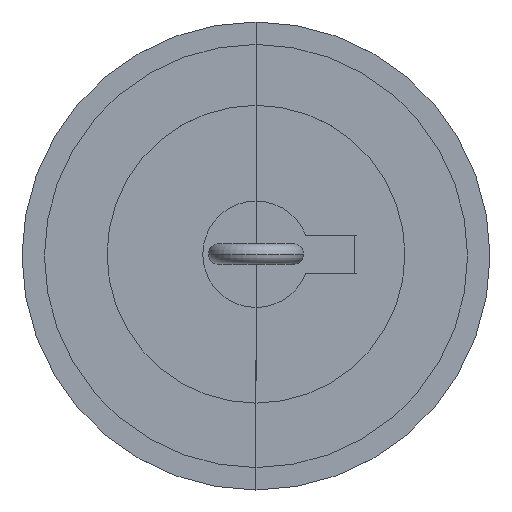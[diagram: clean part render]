
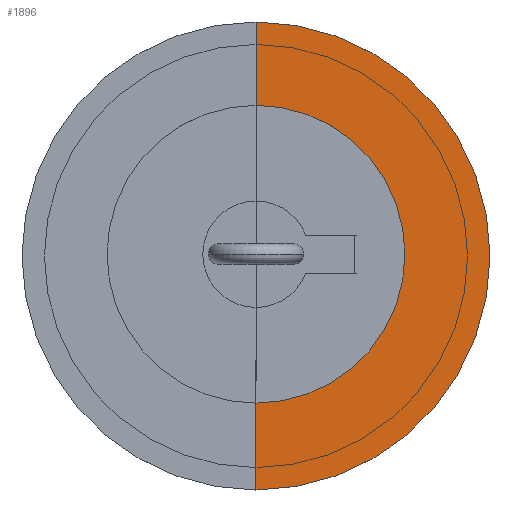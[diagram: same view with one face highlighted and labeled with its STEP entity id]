
A CAD part, top view. The second image highlights one B-rep face of the part: STEP entity #1896.
In plain terms, the highlighted planar face has unit normal (0, 0, 1).
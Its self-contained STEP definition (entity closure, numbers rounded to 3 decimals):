
#171=PLANE('',#2116);
#294=FACE_OUTER_BOUND('',#428,.T.);
#428=EDGE_LOOP('',(#1670,#1671));
#546=LINE('',#4668,#660);
#660=VECTOR('',#2635,304.8);
#756=CIRCLE('',#2117,110.);
#908=VERTEX_POINT('',#4666);
#909=VERTEX_POINT('',#4667);
#1162=EDGE_CURVE('',#908,#909,#546,.T.);
#1163=EDGE_CURVE('',#909,#908,#756,.T.);
#1670=ORIENTED_EDGE('',*,*,#1162,.F.);
#1671=ORIENTED_EDGE('',*,*,#1163,.F.);
#1896=ADVANCED_FACE('',(#294),#171,.T.);
#2116=AXIS2_PLACEMENT_3D('',#4665,#2633,#2634);
#2117=AXIS2_PLACEMENT_3D('',#4669,#2636,#2637);
#2633=DIRECTION('center_axis',(0.,0.,1.));
#2634=DIRECTION('ref_axis',(0.,1.,0.));
#2635=DIRECTION('',(0.,1.,0.));
#2636=DIRECTION('center_axis',(0.,0.,-1.));
#2637=DIRECTION('ref_axis',(0.,1.,0.));
#4665=CARTESIAN_POINT('Origin',(0.,0.,15.));
#4666=CARTESIAN_POINT('',(0.,-110.,15.));
#4667=CARTESIAN_POINT('',(0.,110.,15.));
#4668=CARTESIAN_POINT('',(0.,-110.,15.));
#4669=CARTESIAN_POINT('Origin',(0.,0.,15.));
